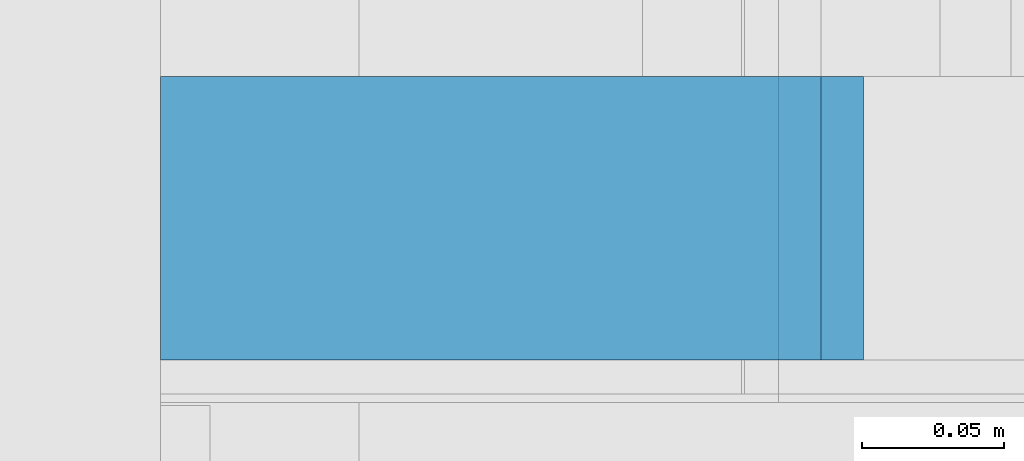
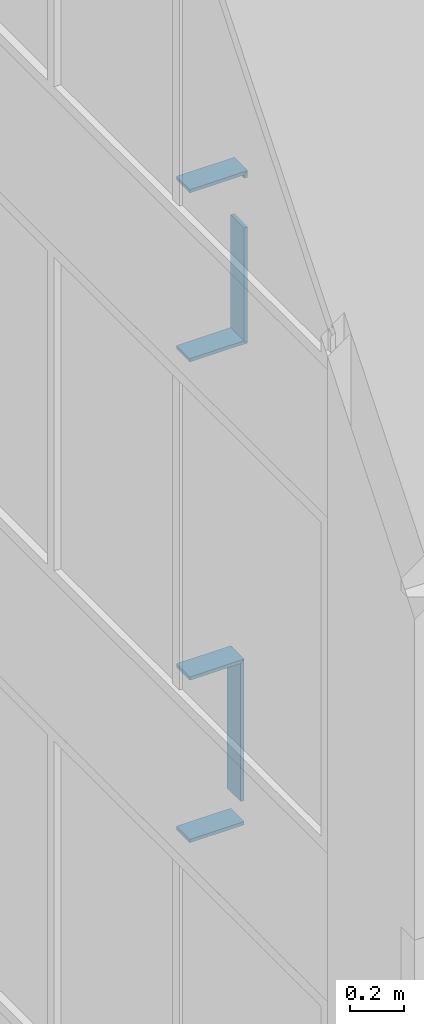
# One storey, part 173 of 583: 7 building element parts, 6 elements without a shape of their own.
"""IFC2X3 building model written with IfcOpenShell, lengths in metres."""

from ifc_helpers import new_model, entity, si_unit, converted_unit, derived_unit, money_unit, direction, frame, frame_2d, origin_with_axes, place, context, subcontext, project, spatial, polyline, rectangle, outline, extrude, material, type_object, element, aggregate, save


model = new_model("IFC2X3")

# Units and contexts
model_context = context("Model", 3, precision=1e-05, world=origin_with_axes(), true_north=direction((0.0, 1.0)))
body_context = subcontext(model_context, "Body", "Model", "MODEL_VIEW", scale=1.0)
ifc_project = project(units=[si_unit("LENGTHUNIT", "METRE"), si_unit("AREAUNIT", "SQUARE_METRE"), si_unit("VOLUMEUNIT", "CUBIC_METRE"), si_unit("ABSORBEDDOSEUNIT", "GRAY"), si_unit("AMOUNTOFSUBSTANCEUNIT", "MOLE"), si_unit("DOSEEQUIVALENTUNIT", "SIEVERT"), si_unit("ELECTRICCAPACITANCEUNIT", "FARAD"), si_unit("ELECTRICCHARGEUNIT", "COULOMB"), si_unit("ELECTRICCONDUCTANCEUNIT", "SIEMENS"), si_unit("ELECTRICCURRENTUNIT", "AMPERE"), si_unit("ELECTRICRESISTANCEUNIT", "OHM"), si_unit("ELECTRICVOLTAGEUNIT", "VOLT"), si_unit("ENERGYUNIT", "JOULE"), si_unit("FORCEUNIT", "NEWTON"), si_unit("FREQUENCYUNIT", "HERTZ"), si_unit("ILLUMINANCEUNIT", "LUX"), si_unit("INDUCTANCEUNIT", "HENRY"), si_unit("LUMINOUSFLUXUNIT", "LUMEN"), si_unit("LUMINOUSINTENSITYUNIT", "CANDELA"), si_unit("MAGNETICFLUXDENSITYUNIT", "TESLA"), si_unit("MAGNETICFLUXUNIT", "WEBER"), si_unit("MASSUNIT", "GRAM"), converted_unit("PLANEANGLEUNIT", "degree", entity("IfcReal", 0.0174532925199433), si_unit("PLANEANGLEUNIT", "RADIAN"), dimensions=[0, 0, 0, 0, 0, 0, 0]), si_unit("POWERUNIT", "WATT"), si_unit("PRESSUREUNIT", "PASCAL"), si_unit("RADIOACTIVITYUNIT", "BECQUEREL"), si_unit("SOLIDANGLEUNIT", "STERADIAN"), si_unit("THERMODYNAMICTEMPERATUREUNIT", "KELVIN"), si_unit("TIMEUNIT", "SECOND"), derived_unit("ACCELERATIONUNIT", [(si_unit("LENGTHUNIT", "METRE"), 1), (si_unit("TIMEUNIT", "SECOND"), -2)]), derived_unit("ANGULARVELOCITYUNIT", [(converted_unit("PLANEANGLEUNIT", "degree", entity("IfcReal", 0.0174532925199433), si_unit("PLANEANGLEUNIT", "RADIAN"), dimensions=[0, 0, 0, 0, 0, 0, 0]), 1), (si_unit("TIMEUNIT", "SECOND"), -1)]), derived_unit("CURVATUREUNIT", [(converted_unit("PLANEANGLEUNIT", "degree", entity("IfcReal", 0.0174532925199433), si_unit("PLANEANGLEUNIT", "RADIAN"), dimensions=[0, 0, 0, 0, 0, 0, 0]), 1), (si_unit("LENGTHUNIT", "METRE"), -1)]), derived_unit("DYNAMICVISCOSITYUNIT", [(si_unit("PRESSUREUNIT", "PASCAL"), 1), (si_unit("TIMEUNIT", "SECOND"), 1)]), derived_unit("HEATFLUXDENSITYUNIT", [(si_unit("POWERUNIT", "WATT"), 1), (si_unit("LENGTHUNIT", "METRE"), -2)]), derived_unit("HEATINGVALUEUNIT", [(si_unit("ENERGYUNIT", "JOULE"), 1), (si_unit("MASSUNIT", "GRAM"), -1)]), derived_unit("INTEGERCOUNTRATEUNIT", [(si_unit("TIMEUNIT", "SECOND"), -1)]), derived_unit("IONCONCENTRATIONUNIT", [(si_unit("MASSUNIT", "GRAM"), 1), (si_unit("VOLUMEUNIT", "CUBIC_METRE"), -1)]), derived_unit("ISOTHERMALMOISTURECAPACITYUNIT", [(si_unit("VOLUMEUNIT", "CUBIC_METRE"), 1), (si_unit("MASSUNIT", "GRAM"), -1)]), derived_unit("KINEMATICVISCOSITYUNIT", [(si_unit("AREAUNIT", "SQUARE_METRE"), 1), (si_unit("TIMEUNIT", "SECOND"), -1)]), derived_unit("LINEARFORCEUNIT", [(si_unit("FORCEUNIT", "NEWTON"), 1), (si_unit("LENGTHUNIT", "METRE"), -1)]), derived_unit("LINEARMOMENTUNIT", [(si_unit("FORCEUNIT", "NEWTON"), 1), (si_unit("LENGTHUNIT", "METRE"), -1)]), derived_unit("LINEARSTIFFNESSUNIT", [(si_unit("FORCEUNIT", "NEWTON"), 1), (si_unit("LENGTHUNIT", "METRE"), -1)]), derived_unit("LINEARVELOCITYUNIT", [(si_unit("LENGTHUNIT", "METRE"), 1), (si_unit("TIMEUNIT", "SECOND"), -1)]), derived_unit("LUMINOUSINTENSITYDISTRIBUTIONUNIT", [(si_unit("LUMINOUSINTENSITYUNIT", "CANDELA"), 1), (si_unit("LUMINOUSFLUXUNIT", "LUMEN"), -1)]), derived_unit("MASSDENSITYUNIT", [(si_unit("MASSUNIT", "GRAM"), 1), (si_unit("VOLUMEUNIT", "CUBIC_METRE"), -1)]), derived_unit("MASSFLOWRATEUNIT", [(si_unit("MASSUNIT", "GRAM"), 1), (si_unit("TIMEUNIT", "SECOND"), -1)]), derived_unit("MASSPERLENGTHUNIT", [(si_unit("MASSUNIT", "GRAM"), 1), (si_unit("LENGTHUNIT", "METRE"), -1)]), derived_unit("MODULUSOFELASTICITYUNIT", [(si_unit("FORCEUNIT", "NEWTON"), 1), (si_unit("AREAUNIT", "SQUARE_METRE"), -1)]), derived_unit("MODULUSOFLINEARSUBGRADEREACTIONUNIT", [(si_unit("FORCEUNIT", "NEWTON"), 1), (si_unit("LENGTHUNIT", "METRE"), -2)]), derived_unit("MODULUSOFROTATIONALSUBGRADEREACTIONUNIT", [(si_unit("FORCEUNIT", "NEWTON"), 1), (si_unit("LENGTHUNIT", "METRE"), 1)]), derived_unit("MODULUSOFSUBGRADEREACTIONUNIT", [(si_unit("FORCEUNIT", "NEWTON"), 1), (si_unit("VOLUMEUNIT", "CUBIC_METRE"), -1)]), derived_unit("MOISTUREDIFFUSIVITYUNIT", [(si_unit("VOLUMEUNIT", "CUBIC_METRE"), 1), (si_unit("TIMEUNIT", "SECOND"), -1)]), derived_unit("MOLECULARWEIGHTUNIT", [(si_unit("MASSUNIT", "GRAM"), 1), (si_unit("AMOUNTOFSUBSTANCEUNIT", "MOLE"), -1)]), derived_unit("PLANARFORCEUNIT", [(si_unit("FORCEUNIT", "NEWTON"), 1), (si_unit("LENGTHUNIT", "METRE"), -2)]), derived_unit("ROTATIONALFREQUENCYUNIT", [(si_unit("TIMEUNIT", "SECOND"), -1)]), derived_unit("ROTATIONALMASSUNIT", [(si_unit("MASSUNIT", "GRAM"), 1), (si_unit("LENGTHUNIT", "METRE"), 2)]), derived_unit("ROTATIONALSTIFFNESSUNIT", [(si_unit("FORCEUNIT", "NEWTON"), 1), (si_unit("LENGTHUNIT", "METRE"), 1), (converted_unit("PLANEANGLEUNIT", "degree", entity("IfcReal", 0.0174532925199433), si_unit("PLANEANGLEUNIT", "RADIAN"), dimensions=[0, 0, 0, 0, 0, 0, 0]), -1)]), derived_unit("SECTIONAREAINTEGRALUNIT", [(si_unit("LENGTHUNIT", "METRE"), 5)]), derived_unit("SECTIONMODULUSUNIT", [(si_unit("LENGTHUNIT", "METRE"), 3)]), derived_unit("SHEARMODULUSUNIT", [(si_unit("FORCEUNIT", "NEWTON"), 1), (si_unit("AREAUNIT", "SQUARE_METRE"), -1)]), derived_unit("SOUNDPOWERUNIT", [(si_unit("ENERGYUNIT", "JOULE"), 1), (si_unit("TIMEUNIT", "SECOND"), -1)]), derived_unit("SPECIFICHEATCAPACITYUNIT", [(si_unit("FORCEUNIT", "NEWTON"), 1), (si_unit("MASSUNIT", "GRAM"), -1), (si_unit("THERMODYNAMICTEMPERATUREUNIT", "KELVIN"), -1)]), derived_unit("TEMPERATUREGRADIENTUNIT", [(si_unit("THERMODYNAMICTEMPERATUREUNIT", "KELVIN"), 1), (si_unit("LENGTHUNIT", "METRE"), -1)]), derived_unit("THERMALADMITTANCEUNIT", [(si_unit("POWERUNIT", "WATT"), 1), (si_unit("AREAUNIT", "SQUARE_METRE"), -1), (si_unit("THERMODYNAMICTEMPERATUREUNIT", "KELVIN"), -1)]), derived_unit("THERMALCONDUCTANCEUNIT", [(si_unit("POWERUNIT", "WATT"), 1), (si_unit("LENGTHUNIT", "METRE"), -1), (si_unit("THERMODYNAMICTEMPERATUREUNIT", "KELVIN"), -1)]), derived_unit("THERMALEXPANSIONCOEFFICIENTUNIT", [(si_unit("THERMODYNAMICTEMPERATUREUNIT", "KELVIN"), -1)]), derived_unit("THERMALRESISTANCEUNIT", [(si_unit("AREAUNIT", "SQUARE_METRE"), 1), (si_unit("POWERUNIT", "WATT"), -1)]), derived_unit("THERMALTRANSMITTANCEUNIT", [(si_unit("POWERUNIT", "WATT"), 1), (si_unit("AREAUNIT", "SQUARE_METRE"), -1), (si_unit("THERMODYNAMICTEMPERATUREUNIT", "KELVIN"), -1)]), derived_unit("TORQUEUNIT", [(si_unit("FORCEUNIT", "NEWTON"), 1), (si_unit("LENGTHUNIT", "METRE"), 1)]), derived_unit("VAPORPERMEABILITYUNIT", [(si_unit("MASSUNIT", "GRAM"), 1), (si_unit("TIMEUNIT", "SECOND"), -1)]), derived_unit("VOLUMETRICFLOWRATEUNIT", [(si_unit("VOLUMEUNIT", "CUBIC_METRE"), 1), (si_unit("TIMEUNIT", "SECOND"), -1)]), derived_unit("WARPINGCONSTANTUNIT", [(si_unit("LENGTHUNIT", "METRE"), 6)]), derived_unit("WARPINGMOMENTUNIT", [(si_unit("FORCEUNIT", "NEWTON"), 1), (si_unit("LENGTHUNIT", "METRE"), 2)]), money_unit("GBP")], contexts=[model_context])

# Site, building, storey
site_placement = place(None, origin_with_axes())
site = spatial("IfcSite", under=ifc_project, at=site_placement, Name="Site", CompositionType="ELEMENT")
building_placement = place(site_placement, origin_with_axes())
building = spatial("IfcBuilding", under=site, at=building_placement, Name="Building01", CompositionType="ELEMENT")
storey_placement = place(building_placement, frame((0.0, 0.0, 20.78), z_axis=(0.0, 0.0, 1.0), x_axis=(1.0, 0.0, 0.0)))
storey = spatial("IfcBuildingStorey", under=building, at=storey_placement, Name="RL", CompositionType="ELEMENT", Elevation=20.78)

# Wall, building element part
wall_type_1 = type_object("IfcWallType", Name="SHE_A-Walls_Type06f_ExternalWallInsulation_48+15mm", PredefinedType="NOTDEFINED")
wall_1_placement = place(storey_placement, frame((0.1, 5.15, 1.173), z_axis=(0.0, 1.0, 0.0), x_axis=(1.0, 0.0, 0.0)))
wall_1 = element("IfcWall", 1, at=wall_1_placement, inside=storey, type_object=wall_type_1, Name="6F", ObjectType="SHE_A-Walls_Type06f_ExternalWallInsulation_48+15mm")
ifc_material = material(Name="A_BSUK_Walls_Timber")
building_element_part_1_placement = place(wall_1_placement, origin_with_axes())
building_element_part_1 = element("IfcBuildingElementPart", 2, at=building_element_part_1_placement, material=ifc_material, Name="2", context=body_context, shape_type="SweptSolid", body=[
    extrude(outline(polyline([(0.248, 0.078), (0.0, 0.078), (0.0, 0.063), (0.233, 0.063), (0.248, 0.078)])), frame((0.0, 0.0, 0.015), z_axis=(0.0, 0.0, 1.0), x_axis=(1.0, 0.0, 0.0)), (0.0, 0.0, 1.0), 0.1),
])
aggregate(wall_1, [building_element_part_1])

# Wall, building element parts
wall_2_placement = place(storey_placement, frame((0.27, 5.15, 1.137), z_axis=(0.0, 1.0, 0.0), x_axis=(0.0, 0.0, 1.0)))
wall_2 = element("IfcWall", 3, at=wall_2_placement, inside=storey, type_object=wall_type_1, Name="6F", ObjectType="SHE_A-Walls_Type06f_ExternalWallInsulation_48+15mm")
placement = place(wall_2_placement, origin_with_axes())
building_element_part_2 = element("IfcBuildingElementPart", 4, at=placement, material=ifc_material, Name="3", context=body_context, shape_type="SweptSolid", body=[
    extrude(outline(polyline([(0.483, 0.078), (-0.042, 0.078), (-0.027, 0.063), (0.483, 0.063), (0.483, 0.078)])), frame((0.0, 0.0, 0.015), z_axis=(0.0, 0.0, 1.0), x_axis=(1.0, 0.0, 0.0)), (0.0, 0.0, 1.0), 0.1),
])
building_element_part_3 = element("IfcBuildingElementPart", 5, at=placement, material=ifc_material, Name="5", context=body_context, shape_type="SweptSolid", body=[
    extrude(outline(polyline([(0.738, 0.078), (0.708, 0.078), (0.708, 0.063), (0.723, 0.063), (0.738, 0.078)])), frame((0.0, 0.0, 0.015), z_axis=(0.0, 0.0, 1.0), x_axis=(1.0, 0.0, 0.0)), (0.0, 0.0, 1.0), 0.1),
])
aggregate(wall_2, [building_element_part_2, building_element_part_3])

# Wall, building element part
wall_3_placement = place(storey_placement, frame((0.27, 5.15, 1.797), z_axis=(0.0, 1.0, 0.0), x_axis=(-1.0, 0.0, 0.0)))
wall_3 = element("IfcWall", 6, at=wall_3_placement, inside=storey, type_object=wall_type_1, Name="6F", ObjectType="SHE_A-Walls_Type06f_ExternalWallInsulation_48+15mm")
building_element_part_4_placement = place(wall_3_placement, origin_with_axes())
building_element_part_4 = element("IfcBuildingElementPart", 7, at=building_element_part_4_placement, material=ifc_material, Name="2", context=body_context, shape_type="SweptSolid", body=[
    extrude(outline(polyline([(-0.078, 0.078), (-0.063, 0.063), (0.17, 0.063), (0.17, 0.078), (-0.078, 0.078)])), frame((0.0, 0.0, 0.015), z_axis=(0.0, 0.0, 1.0), x_axis=(1.0, 0.0, 0.0)), (0.0, 0.0, 1.0), 0.1),
])
aggregate(wall_3, [building_element_part_4])

wall_type_2 = type_object("IfcWallType", Name="SHE_A-Walls_Type06d_ExternalWallInsulation_48mm", PredefinedType="NOTDEFINED")
wall_4_placement = place(storey_placement, frame((0.1, 5.15, -1.017), z_axis=(0.0, 1.0, 0.0), x_axis=(1.0, 0.0, 0.0)))
wall_4 = element("IfcWall", 8, at=wall_4_placement, inside=storey, type_object=wall_type_2, Name="6D", ObjectType="SHE_A-Walls_Type06d_ExternalWallInsulation_48mm")
building_element_part_5_placement = place(wall_4_placement, origin_with_axes())
building_element_part_5 = element("IfcBuildingElementPart", 9, at=building_element_part_5_placement, material=ifc_material, Name="2", context=body_context, shape_type="SweptSolid", body=[
    extrude(rectangle(XDim=0.233, YDim=0.015, at=frame_2d((0.1165, 0.0555), x_axis=(-1.0, 0.0))), frame((0.0, 0.0, 0.015), z_axis=(0.0, 0.0, 1.0), x_axis=(1.0, 0.0, 0.0)), (0.0, 0.0, 1.0), 0.1),
])
aggregate(wall_4, [building_element_part_5])

wall_5_placement = place(storey_placement, frame((0.27, 5.15, -1.017), z_axis=(0.0, 1.0, 0.0), x_axis=(0.0, 0.0, 1.0)))
wall_5 = element("IfcWall", 10, at=wall_5_placement, inside=storey, type_object=wall_type_2, Name="6D", ObjectType="SHE_A-Walls_Type06d_ExternalWallInsulation_48mm")
building_element_part_6_placement = place(wall_5_placement, origin_with_axes())
building_element_part_6 = element("IfcBuildingElementPart", 11, at=building_element_part_6_placement, material=ifc_material, Name="2", context=body_context, shape_type="SweptSolid", body=[
    extrude(outline(polyline([(0.687, 0.063), (0.047, 0.063), (0.047, 0.048), (0.672, 0.048), (0.687, 0.063)])), frame((0.0, 0.0, 0.015), z_axis=(0.0, 0.0, 1.0), x_axis=(1.0, 0.0, 0.0)), (0.0, 0.0, 1.0), 0.1),
])
aggregate(wall_5, [building_element_part_6])

wall_6_placement = place(storey_placement, frame((0.27, 5.15, -0.393), z_axis=(0.0, 1.0, 0.0), x_axis=(-1.0, 0.0, 0.0)))
wall_6 = element("IfcWall", 12, at=wall_6_placement, inside=storey, type_object=wall_type_2, Name="6D", ObjectType="SHE_A-Walls_Type06d_ExternalWallInsulation_48mm")
building_element_part_7_placement = place(wall_6_placement, origin_with_axes())
building_element_part_7 = element("IfcBuildingElementPart", 13, at=building_element_part_7_placement, material=ifc_material, Name="2", context=body_context, shape_type="SweptSolid", body=[
    extrude(outline(polyline([(-0.063, 0.063), (-0.048, 0.048), (0.17, 0.048), (0.17, 0.063), (-0.063, 0.063)])), frame((0.0, 0.0, 0.015), z_axis=(0.0, 0.0, 1.0), x_axis=(1.0, 0.0, 0.0)), (0.0, 0.0, 1.0), 0.1),
])
aggregate(wall_6, [building_element_part_7])

save(model, "model.ifc")
